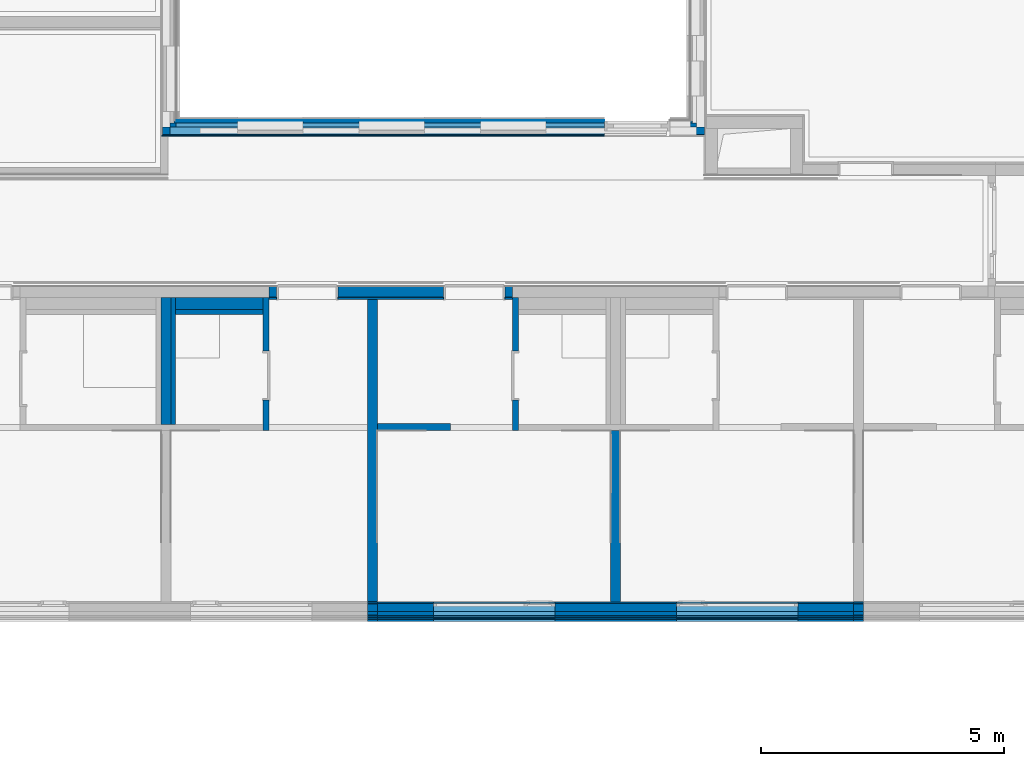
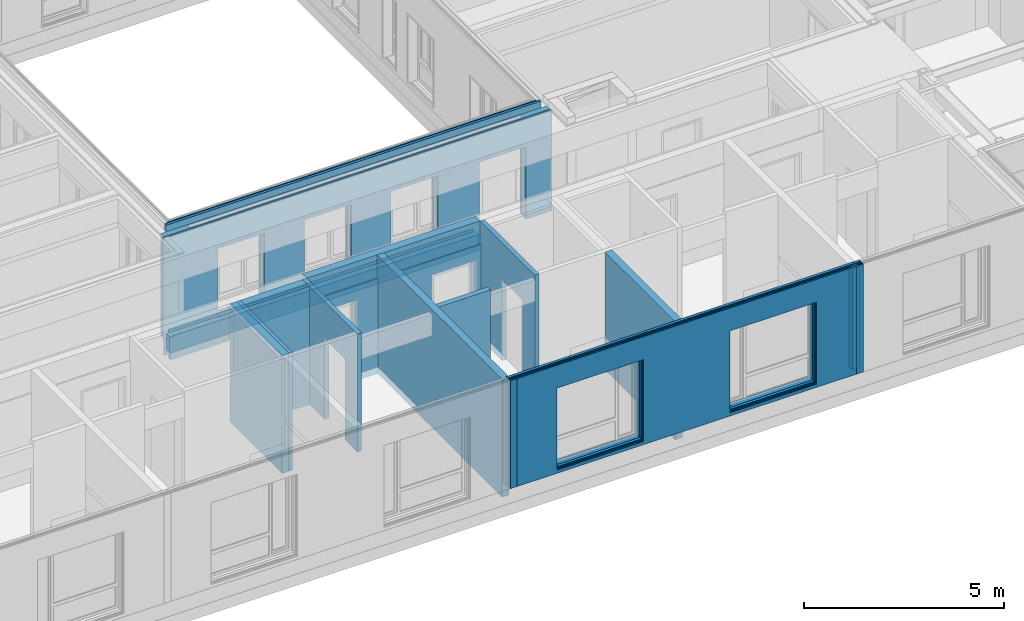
# One storey, part 12 of 207: 40 walls, 36 openings.
"""IFC4 building model written with IfcOpenShell, lengths in metres."""

from ifc_helpers import new_model, entity, si_unit, converted_unit, derived_unit, frame, frame_2d, origin, origin_with_axes, place, context, subcontext, project, spatial, polyline, rectangle, outline, extrude, clip, bounded_halfspace, material, element, save


model = new_model("IFC4")

# Units and contexts
model_context = context("Model", 3, precision=1e-05, world=origin())
body_context = subcontext(model_context, "Body", "Model", "MODEL_VIEW")
ifc_project = project(units=[si_unit("LENGTHUNIT", "METRE"), si_unit("AREAUNIT", "SQUARE_METRE"), si_unit("VOLUMEUNIT", "CUBIC_METRE"), si_unit("MASSUNIT", "GRAM", prefix="KILO"), converted_unit("PLANEANGLEUNIT", "DEGREE", entity("IfcPlaneAngleMeasure", 0.0174532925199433), si_unit("PLANEANGLEUNIT", "RADIAN"), dimensions=[0, 0, 0, 0, 0, 0, 0]), derived_unit("THERMALTRANSMITTANCEUNIT", [(si_unit("POWERUNIT", "WATT"), 1), (si_unit("THERMODYNAMICTEMPERATUREUNIT", "KELVIN"), -1), (si_unit("LENGTHUNIT", "METRE"), -2)]), derived_unit("VOLUMETRICFLOWRATEUNIT", [(si_unit("LENGTHUNIT", "METRE"), 3), (converted_unit("TIMEUNIT", "hour", entity("IfcTimeMeasure", 3600.0), si_unit("TIMEUNIT", "SECOND"), dimensions=[0, 0, 1, 0, 0, 0, 0]), -1), (si_unit("LENGTHUNIT", "METRE"), -1)])], contexts=[model_context])

# Site, building, storey
site_placement = place(None, origin())
site = spatial("IfcSite", under=ifc_project, at=site_placement, Name="Psychiatrie Neubau Wunstorf", CompositionType="ELEMENT")
building_placement = place(site_placement, origin())
building = spatial("IfcBuilding", under=site, at=building_placement, Name="Neubau H2 Stationsgebäude", CompositionType="ELEMENT")
storey_placement = place(building_placement, frame((0.0, 0.0, -0.2)))
storey = spatial("IfcBuildingStorey", under=building, at=storey_placement, Name="H2 Ebene 0", CompositionType="ELEMENT", Elevation=-0.2)

# Walls
ifc_material_1 = material(Name="WA-LB")
wall_1_placement = place(storey_placement, frame((30.1, -2.16399999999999, 0.5), z_axis=(0.0, 0.0, 1.0), x_axis=(-1.0, 0.0, 0.0)))
element("IfcWall", 1, at=wall_1_placement, inside=storey, material=ifc_material_1, context=body_context, shape_type="SweptSolid", body=[
    extrude(rectangle(XDim=0.2, YDim=0.036, at=frame_2d((0.1, 0.018), x_axis=(1.0, 0.0))), origin_with_axes(), (0.0, 0.0, 1.0), 3.1),
])
ifc_material_2 = material(Name="WA-HD")
wall_2_placement = place(storey_placement, frame((30.1, -2.19999999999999, 0.5), z_axis=(0.0, 0.0, 1.0), x_axis=(-1.0, 0.0, 0.0)))
element("IfcWall", 2, at=wall_2_placement, inside=storey, material=ifc_material_2, context=body_context, shape_type="SweptSolid", body=[
    extrude(rectangle(XDim=0.2, YDim=0.16, at=frame_2d((0.1, 0.08), x_axis=(1.0, 0.0))), origin_with_axes(), (0.0, 0.0, 1.0), 3.1),
])
ifc_material_3 = material(Name="WA-DL")
wall_3_placement = place(storey_placement, frame((30.1, -2.35999999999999, 0.5), z_axis=(0.0, 0.0, 1.0), x_axis=(-1.0, 0.0, 0.0)))
element("IfcWall", 3, at=wall_3_placement, inside=storey, material=ifc_material_3, context=body_context, shape_type="SweptSolid", body=[
    extrude(rectangle(XDim=0.2, YDim=0.08, at=frame_2d((0.1, 0.04), x_axis=(1.0, 0.0))), origin_with_axes(), (0.0, 0.0, 1.0), 3.3),
])
ifc_material_4 = material(Name="WA-TP")
wall_4_placement = place(storey_placement, frame((30.1, -2.43999999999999, 0.5), z_axis=(0.0, 0.0, 1.0), x_axis=(-1.0, 0.0, 0.0)))
element("IfcWall", 4, at=wall_4_placement, inside=storey, material=ifc_material_4, context=body_context, shape_type="SweptSolid", body=[
    extrude(rectangle(XDim=0.2, YDim=0.036, at=frame_2d((0.1, 0.018), x_axis=(1.0, 0.0))), origin_with_axes(), (0.0, 0.0, 1.0), 3.3),
])
ifc_material_5 = material(Name="WA-KL")
wall_5_placement = place(storey_placement, frame((30.1, -2.47599999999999, 0.5), z_axis=(0.0, 0.0, 1.0), x_axis=(-1.0, 0.0, 0.0)))
element("IfcWall", 5, at=wall_5_placement, inside=storey, material=ifc_material_5, context=body_context, shape_type="SweptSolid", body=[
    extrude(rectangle(XDim=0.2, YDim=0.024, at=frame_2d((0.1, 0.012), x_axis=(1.0, 0.0))), origin_with_axes(), (0.0, 0.0, 1.0), 3.3),
])
ifc_material_6 = material(Name="WA-TL")
wall_6_placement = place(storey_placement, frame((30.1, -2.49999999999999, 0.5), z_axis=(0.0, 0.0, 1.0), x_axis=(-1.0, 0.0, 0.0)))
element("IfcWall", 6, at=wall_6_placement, inside=storey, material=ifc_material_6, context=body_context, shape_type="SweptSolid", body=[
    extrude(rectangle(XDim=0.2, YDim=0.024, at=frame_2d((0.1, 0.012), x_axis=(1.0, 0.0))), origin_with_axes(), (0.0, 0.0, 1.0), 3.3),
])
ifc_material_7 = material(Name="WA-HS")
wall_7_placement = place(storey_placement, frame((30.1, -2.52399999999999, 0.5), z_axis=(0.0, 0.0, 1.0), x_axis=(-1.0, 0.0, 0.0)))
element("IfcWall", 7, at=wall_7_placement, inside=storey, material=ifc_material_7, context=body_context, shape_type="SweptSolid", body=[
    extrude(rectangle(XDim=0.2, YDim=0.042, at=frame_2d((0.1, 0.021), x_axis=(1.0, 0.0))), origin_with_axes(), (0.0, 0.0, 1.0), 3.3),
])
ifc_material_8 = material(Name="WA-LB")
wall_8_placement = place(storey_placement, frame((20.1, -2.16399999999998, 0.5), z_axis=(0.0, 0.0, 1.0), x_axis=(-1.0, 0.0, 0.0)))
element("IfcWall", 8, at=wall_8_placement, inside=storey, material=ifc_material_8, context=body_context, shape_type="SweptSolid", body=[
    extrude(rectangle(XDim=0.2, YDim=0.036, at=frame_2d((0.1, 0.018), x_axis=(1.0, 0.0))), origin_with_axes(), (0.0, 0.0, 1.0), 3.1),
])
ifc_material_9 = material(Name="WA-HD")
wall_9_placement = place(storey_placement, frame((20.1, -2.19999999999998, 0.5), z_axis=(0.0, 0.0, 1.0), x_axis=(-1.0, 0.0, 0.0)))
element("IfcWall", 9, at=wall_9_placement, inside=storey, material=ifc_material_9, context=body_context, shape_type="SweptSolid", body=[
    extrude(rectangle(XDim=0.2, YDim=0.16, at=frame_2d((0.1, 0.08), x_axis=(1.0, 0.0))), origin_with_axes(), (0.0, 0.0, 1.0), 3.1),
])
ifc_material_10 = material(Name="WA-DL")
wall_10_placement = place(storey_placement, frame((20.1, -2.35999999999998, 0.5), z_axis=(0.0, 0.0, 1.0), x_axis=(-1.0, 0.0, 0.0)))
element("IfcWall", 10, at=wall_10_placement, inside=storey, material=ifc_material_10, context=body_context, shape_type="SweptSolid", body=[
    extrude(rectangle(XDim=0.2, YDim=0.08, at=frame_2d((0.1, 0.04), x_axis=(1.0, 0.0))), origin_with_axes(), (0.0, 0.0, 1.0), 3.3),
])
ifc_material_11 = material(Name="WA-TP")
wall_11_placement = place(storey_placement, frame((20.1, -2.43999999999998, 0.5), z_axis=(0.0, 0.0, 1.0), x_axis=(-1.0, 0.0, 0.0)))
element("IfcWall", 11, at=wall_11_placement, inside=storey, material=ifc_material_11, context=body_context, shape_type="SweptSolid", body=[
    extrude(rectangle(XDim=0.2, YDim=0.036, at=frame_2d((0.1, 0.018), x_axis=(1.0, 0.0))), origin_with_axes(), (0.0, 0.0, 1.0), 3.3),
])
ifc_material_12 = material(Name="WA-KL")
wall_12_placement = place(storey_placement, frame((20.1, -2.47599999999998, 0.5), z_axis=(0.0, 0.0, 1.0), x_axis=(-1.0, 0.0, 0.0)))
element("IfcWall", 12, at=wall_12_placement, inside=storey, material=ifc_material_12, context=body_context, shape_type="SweptSolid", body=[
    extrude(rectangle(XDim=0.2, YDim=0.024, at=frame_2d((0.1, 0.012), x_axis=(1.0, 0.0))), origin_with_axes(), (0.0, 0.0, 1.0), 3.3),
])
ifc_material_13 = material(Name="WA-TL")
wall_13_placement = place(storey_placement, frame((20.1, -2.49999999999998, 0.5), z_axis=(0.0, 0.0, 1.0), x_axis=(-1.0, 0.0, 0.0)))
element("IfcWall", 13, at=wall_13_placement, inside=storey, material=ifc_material_13, context=body_context, shape_type="SweptSolid", body=[
    extrude(rectangle(XDim=0.2, YDim=0.024, at=frame_2d((0.1, 0.012), x_axis=(1.0, 0.0))), origin_with_axes(), (0.0, 0.0, 1.0), 3.3),
])
ifc_material_14 = material(Name="WA-HS")
wall_14_placement = place(storey_placement, frame((20.1, -2.52399999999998, 0.5), z_axis=(0.0, 0.0, 1.0), x_axis=(-1.0, 0.0, 0.0)))
element("IfcWall", 14, at=wall_14_placement, inside=storey, material=ifc_material_14, context=body_context, shape_type="SweptSolid", body=[
    extrude(rectangle(XDim=0.2, YDim=0.042, at=frame_2d((0.1, 0.021), x_axis=(1.0, 0.0))), origin_with_axes(), (0.0, 0.0, 1.0), 3.3),
])

# Wall, openings
ifc_material_15 = material(Name="WA-LB")
wall_15_placement = place(storey_placement, frame((15.639, 7.414, 0.5)))
wall_15 = element("IfcWall", 15, at=wall_15_placement, inside=storey, material=ifc_material_15, context=body_context, shape_type="SweptSolid", body=[
    extrude(rectangle(XDim=11.222, YDim=0.036, at=frame_2d((5.61099999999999, 0.018), x_axis=(1.0, 0.0))), origin_with_axes(), (0.0, 0.0, 1.0), 3.1),
])
opening_1_placement = place(wall_15_placement, frame((7.93116867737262, 0.036, 0.1), z_axis=(0.0, -1.0, 0.0), x_axis=(0.0, 0.0, 1.0)))
element("IfcOpeningElement", 16, at=opening_1_placement, cuts=wall_15, Name="Fensteröffnung", ObjectType="Opening", context=body_context, shape_type="SweptSolid", body=[
    extrude(outline(polyline([(2.12, 1.35), (2.12, 0.0), (0.0, 0.0), (0.0, 1.35), (2.12, 1.35)])), origin_with_axes(), (0.0, 0.0, 1.0), 0.036),
])
opening_2_placement = place(wall_15_placement, frame((5.43116867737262, 0.036, 0.1), z_axis=(0.0, -1.0, 0.0), x_axis=(0.0, 0.0, 1.0)))
element("IfcOpeningElement", 17, at=opening_2_placement, cuts=wall_15, Name="Fensteröffnung", ObjectType="Opening", context=body_context, shape_type="SweptSolid", body=[
    extrude(outline(polyline([(2.12, 1.35), (2.12, 0.0), (0.0, 0.0), (0.0, 1.35), (2.12, 1.35)])), origin_with_axes(), (0.0, 0.0, 1.0), 0.036),
])
opening_3_placement = place(wall_15_placement, frame((2.93116867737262, 0.036, 0.1), z_axis=(0.0, -1.0, 0.0), x_axis=(0.0, 0.0, 1.0)))
element("IfcOpeningElement", 18, at=opening_3_placement, cuts=wall_15, Name="Fensteröffnung", ObjectType="Opening", context=body_context, shape_type="SweptSolid", body=[
    extrude(outline(polyline([(2.12, 1.35), (2.12, 0.0), (0.0, 0.0), (0.0, 1.35), (2.12, 1.35)])), origin_with_axes(), (0.0, 0.0, 1.0), 0.036),
])
opening_4_placement = place(wall_15_placement, frame((10.4811686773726, 0.036, -0.5), z_axis=(0.0, -1.0, 0.0), x_axis=(0.0, 0.0, 1.0)))
element("IfcOpeningElement", 19, at=opening_4_placement, cuts=wall_15, Name="Türöffnung", ObjectType="Opening", context=body_context, shape_type="SweptSolid", body=[
    extrude(outline(polyline([(2.72, 1.35), (2.72, 0.0), (0.0, 0.0), (0.0, 1.35), (2.72, 1.35)])), origin_with_axes(), (0.0, 0.0, 1.0), 0.036),
])

ifc_material_16 = material(Name="WA-HD")
wall_16_placement = place(storey_placement, frame((15.675, 7.45, 0.5)))
wall_16 = element("IfcWall", 20, at=wall_16_placement, inside=storey, material=ifc_material_16, context=body_context, shape_type="Clipping", body=[
    clip(extrude(rectangle(XDim=11.15, YDim=0.16, at=frame_2d((5.57499999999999, 0.08), x_axis=(1.0, 0.0))), origin_with_axes(), (0.0, 0.0, 1.0), 3.1), bounded_halfspace(frame((5.57499929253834, 0.0800017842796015, 2.82), z_axis=(0.0, 0.0, -1.0), x_axis=(3.71484293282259e-07, -0.999999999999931, 0.0)), True, origin_with_axes(), polyline([(0.771890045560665, 0.139999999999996), (0.771890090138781, 0.0200000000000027), (10.378108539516, 0.0200035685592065), (10.3781084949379, 0.1400035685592), (0.771890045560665, 0.139999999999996)]))),
])
opening_5_placement = place(wall_16_placement, frame((7.89516867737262, 0.16, 0.1), z_axis=(0.0, -1.0, 0.0), x_axis=(0.0, 0.0, 1.0)))
element("IfcOpeningElement", 21, at=opening_5_placement, cuts=wall_16, Name="Fensteröffnung", ObjectType="Opening", context=body_context, shape_type="SweptSolid", body=[
    extrude(outline(polyline([(2.12, 1.35), (2.12, 0.0), (0.0, 0.0), (0.0, 1.35), (2.12, 1.35)])), origin_with_axes(), (0.0, 0.0, 1.0), 0.16),
])
opening_6_placement = place(wall_16_placement, frame((5.39516867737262, 0.16, 0.1), z_axis=(0.0, -1.0, 0.0), x_axis=(0.0, 0.0, 1.0)))
element("IfcOpeningElement", 22, at=opening_6_placement, cuts=wall_16, Name="Fensteröffnung", ObjectType="Opening", context=body_context, shape_type="SweptSolid", body=[
    extrude(outline(polyline([(2.12, 1.35), (2.12, 0.0), (0.0, 0.0), (0.0, 1.35), (2.12, 1.35)])), origin_with_axes(), (0.0, 0.0, 1.0), 0.16),
])
opening_7_placement = place(wall_16_placement, frame((2.89516867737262, 0.16, 0.1), z_axis=(0.0, -1.0, 0.0), x_axis=(0.0, 0.0, 1.0)))
element("IfcOpeningElement", 23, at=opening_7_placement, cuts=wall_16, Name="Fensteröffnung", ObjectType="Opening", context=body_context, shape_type="SweptSolid", body=[
    extrude(outline(polyline([(2.12, 1.35), (2.12, 0.0), (0.0, 0.0), (0.0, 1.35), (2.12, 1.35)])), origin_with_axes(), (0.0, 0.0, 1.0), 0.16),
])
opening_8_placement = place(wall_16_placement, frame((10.4451686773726, 0.16, -0.5), z_axis=(0.0, -1.0, 0.0), x_axis=(0.0, 0.0, 1.0)))
element("IfcOpeningElement", 24, at=opening_8_placement, cuts=wall_16, Name="Türöffnung", ObjectType="Opening", context=body_context, shape_type="SweptSolid", body=[
    extrude(outline(polyline([(2.72, 1.35), (2.72, 0.0), (0.0, 0.0), (0.0, 1.35), (2.72, 1.35)])), origin_with_axes(), (0.0, 0.0, 1.0), 0.16),
])

ifc_material_17 = material(Name="WA-DL")
wall_17_placement = place(storey_placement, frame((15.835, 7.61, 0.5)))
wall_17 = element("IfcWall", 25, at=wall_17_placement, inside=storey, material=ifc_material_17, context=body_context, shape_type="SweptSolid", body=[
    extrude(rectangle(XDim=10.83, YDim=0.08, at=frame_2d((5.41499999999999, 0.04), x_axis=(1.0, 0.0))), origin_with_axes(), (0.0, 0.0, 1.0), 3.3),
])
opening_9_placement = place(wall_17_placement, frame((7.73516867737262, 0.08, 0.1), z_axis=(0.0, -1.0, 0.0), x_axis=(0.0, 0.0, 1.0)))
element("IfcOpeningElement", 26, at=opening_9_placement, cuts=wall_17, Name="Fensteröffnung", ObjectType="Opening", context=body_context, shape_type="SweptSolid", body=[
    extrude(outline(polyline([(2.12, 1.35), (2.12, 0.0), (0.0, 0.0), (0.0, 1.35), (2.12, 1.35)])), origin_with_axes(), (0.0, 0.0, 1.0), 0.08),
])
opening_10_placement = place(wall_17_placement, frame((5.23516867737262, 0.08, 0.1), z_axis=(0.0, -1.0, 0.0), x_axis=(0.0, 0.0, 1.0)))
element("IfcOpeningElement", 27, at=opening_10_placement, cuts=wall_17, Name="Fensteröffnung", ObjectType="Opening", context=body_context, shape_type="SweptSolid", body=[
    extrude(outline(polyline([(2.12, 1.35), (2.12, 0.0), (0.0, 0.0), (0.0, 1.35), (2.12, 1.35)])), origin_with_axes(), (0.0, 0.0, 1.0), 0.08),
])
opening_11_placement = place(wall_17_placement, frame((2.73516867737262, 0.08, 0.1), z_axis=(0.0, -1.0, 0.0), x_axis=(0.0, 0.0, 1.0)))
element("IfcOpeningElement", 28, at=opening_11_placement, cuts=wall_17, Name="Fensteröffnung", ObjectType="Opening", context=body_context, shape_type="SweptSolid", body=[
    extrude(outline(polyline([(2.12, 1.35), (2.12, 0.0), (0.0, 0.0), (0.0, 1.35), (2.12, 1.35)])), origin_with_axes(), (0.0, 0.0, 1.0), 0.08),
])
opening_12_placement = place(wall_17_placement, frame((10.2851686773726, 0.08, -0.5), z_axis=(0.0, -1.0, 0.0), x_axis=(0.0, 0.0, 1.0)))
element("IfcOpeningElement", 29, at=opening_12_placement, cuts=wall_17, Name="Türöffnung", ObjectType="Opening", context=body_context, shape_type="SweptSolid", body=[
    extrude(outline(polyline([(2.72, 1.35), (2.72, 0.0), (0.0, 0.0), (0.0, 1.35), (2.72, 1.35)])), origin_with_axes(), (0.0, 0.0, 1.0), 0.08),
])

ifc_material_18 = material(Name="WA-LB")
wall_18_placement = place(storey_placement, frame((15.915, 7.69, 0.5)))
wall_18 = element("IfcWall", 30, at=wall_18_placement, inside=storey, material=ifc_material_18, context=body_context, shape_type="SweptSolid", body=[
    extrude(rectangle(XDim=10.67, YDim=0.036, at=frame_2d((5.33499999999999, 0.018), x_axis=(1.0, 0.0))), origin_with_axes(), (0.0, 0.0, 1.0), 3.3),
])
opening_13_placement = place(wall_18_placement, frame((7.65516867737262, 0.036, 0.1), z_axis=(0.0, -1.0, 0.0), x_axis=(0.0, 0.0, 1.0)))
element("IfcOpeningElement", 31, at=opening_13_placement, cuts=wall_18, Name="Fensteröffnung", ObjectType="Opening", context=body_context, shape_type="SweptSolid", body=[
    extrude(outline(polyline([(2.12, 1.35), (2.12, 0.0), (0.0, 0.0), (0.0, 1.35), (2.12, 1.35)])), origin_with_axes(), (0.0, 0.0, 1.0), 0.036),
])
opening_14_placement = place(wall_18_placement, frame((5.15516867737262, 0.036, 0.1), z_axis=(0.0, -1.0, 0.0), x_axis=(0.0, 0.0, 1.0)))
element("IfcOpeningElement", 32, at=opening_14_placement, cuts=wall_18, Name="Fensteröffnung", ObjectType="Opening", context=body_context, shape_type="SweptSolid", body=[
    extrude(outline(polyline([(2.12, 1.35), (2.12, 0.0), (0.0, 0.0), (0.0, 1.35), (2.12, 1.35)])), origin_with_axes(), (0.0, 0.0, 1.0), 0.036),
])
opening_15_placement = place(wall_18_placement, frame((2.65516867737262, 0.036, 0.1), z_axis=(0.0, -1.0, 0.0), x_axis=(0.0, 0.0, 1.0)))
element("IfcOpeningElement", 33, at=opening_15_placement, cuts=wall_18, Name="Fensteröffnung", ObjectType="Opening", context=body_context, shape_type="SweptSolid", body=[
    extrude(outline(polyline([(2.12, 1.35), (2.12, 0.0), (0.0, 0.0), (0.0, 1.35), (2.12, 1.35)])), origin_with_axes(), (0.0, 0.0, 1.0), 0.036),
])
opening_16_placement = place(wall_18_placement, frame((10.2051686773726, 0.036, -0.5), z_axis=(0.0, -1.0, 0.0), x_axis=(0.0, 0.0, 1.0)))
element("IfcOpeningElement", 34, at=opening_16_placement, cuts=wall_18, Name="Türöffnung", ObjectType="Opening", context=body_context, shape_type="SweptSolid", body=[
    extrude(outline(polyline([(2.72, 1.35), (2.72, 0.0), (0.0, 0.0), (0.0, 1.35), (2.72, 1.35)])), origin_with_axes(), (0.0, 0.0, 1.0), 0.036),
])

ifc_material_19 = material(Name="WA-LB")
wall_19_placement = place(storey_placement, frame((29.9, -2.16399999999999, 0.5), z_axis=(0.0, 0.0, 1.0), x_axis=(-1.0, 1.39208372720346e-16, 0.0)))
wall_19 = element("IfcWall", 35, at=wall_19_placement, inside=storey, material=ifc_material_19, context=body_context, shape_type="SweptSolid", body=[
    extrude(rectangle(XDim=9.8, YDim=0.036, at=frame_2d((4.9, 0.018), x_axis=(1.0, 0.0))), origin_with_axes(), (0.0, 0.0, 1.0), 3.1),
])
opening_17_placement = place(wall_19_placement, frame((1.15, 0.0, 0.1), z_axis=(0.0, 1.0, 0.0), x_axis=(0.0, 0.0, 1.0)))
element("IfcOpeningElement", 36, at=opening_17_placement, cuts=wall_19, Name="Fensteröffnung", ObjectType="Opening", context=body_context, shape_type="SweptSolid", body=[
    extrude(outline(polyline([(2.5, 2.5), (2.5, 0.0), (0.0, 0.0), (0.0, 2.5), (2.5, 2.5)])), origin_with_axes(), (0.0, 0.0, 1.0), 0.036),
])
opening_18_placement = place(wall_19_placement, frame((6.15, 0.0, 0.1), z_axis=(0.0, 1.0, 0.0), x_axis=(0.0, 0.0, 1.0)))
element("IfcOpeningElement", 37, at=opening_18_placement, cuts=wall_19, Name="Fensteröffnung", ObjectType="Opening", context=body_context, shape_type="SweptSolid", body=[
    extrude(outline(polyline([(2.5, 2.5), (2.5, 0.0), (0.0, 0.0), (0.0, 2.5), (2.5, 2.5)])), origin_with_axes(), (0.0, 0.0, 1.0), 0.036),
])

ifc_material_20 = material(Name="WA-HD")
wall_20_placement = place(storey_placement, frame((29.9, -2.19999999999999, 0.5), z_axis=(0.0, 0.0, 1.0), x_axis=(-1.0, 1.39208372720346e-16, 0.0)))
wall_20 = element("IfcWall", 38, at=wall_20_placement, inside=storey, material=ifc_material_20, context=body_context, shape_type="SweptSolid", body=[
    extrude(rectangle(XDim=9.8, YDim=0.16, at=frame_2d((4.9, 0.08), x_axis=(1.0, 0.0))), origin_with_axes(), (0.0, 0.0, 1.0), 3.1),
])
opening_19_placement = place(wall_20_placement, frame((1.15, 0.0, 0.1), z_axis=(0.0, 1.0, 0.0), x_axis=(0.0, 0.0, 1.0)))
element("IfcOpeningElement", 39, at=opening_19_placement, cuts=wall_20, Name="Fensteröffnung", ObjectType="Opening", context=body_context, shape_type="SweptSolid", body=[
    extrude(outline(polyline([(2.5, 2.5), (2.5, 0.0), (0.0, 0.0), (0.0, 2.5), (2.5, 2.5)])), origin_with_axes(), (0.0, 0.0, 1.0), 0.16),
])
opening_20_placement = place(wall_20_placement, frame((6.15, 0.0, 0.1), z_axis=(0.0, 1.0, 0.0), x_axis=(0.0, 0.0, 1.0)))
element("IfcOpeningElement", 40, at=opening_20_placement, cuts=wall_20, Name="Fensteröffnung", ObjectType="Opening", context=body_context, shape_type="SweptSolid", body=[
    extrude(outline(polyline([(2.5, 2.5), (2.5, 0.0), (0.0, 0.0), (0.0, 2.5), (2.5, 2.5)])), origin_with_axes(), (0.0, 0.0, 1.0), 0.16),
])

ifc_material_21 = material(Name="WA-DL")
wall_21_placement = place(storey_placement, frame((29.9, -2.35999999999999, 0.5), z_axis=(0.0, 0.0, 1.0), x_axis=(-1.0, 1.39208372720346e-16, 0.0)))
wall_21 = element("IfcWall", 41, at=wall_21_placement, inside=storey, material=ifc_material_21, context=body_context, shape_type="SweptSolid", body=[
    extrude(rectangle(XDim=9.8, YDim=0.08, at=frame_2d((4.9, 0.04), x_axis=(1.0, 0.0))), origin_with_axes(), (0.0, 0.0, 1.0), 3.3),
])
opening_21_placement = place(wall_21_placement, frame((1.15, 0.0, 0.1), z_axis=(0.0, 1.0, 0.0), x_axis=(0.0, 0.0, 1.0)))
element("IfcOpeningElement", 42, at=opening_21_placement, cuts=wall_21, Name="Fensteröffnung", ObjectType="Opening", context=body_context, shape_type="SweptSolid", body=[
    extrude(outline(polyline([(2.5, 2.5), (2.5, 0.0), (0.0, 0.0), (0.0, 2.5), (2.5, 2.5)])), origin_with_axes(), (0.0, 0.0, 1.0), 0.08),
])
opening_22_placement = place(wall_21_placement, frame((6.15, 0.0, 0.1), z_axis=(0.0, 1.0, 0.0), x_axis=(0.0, 0.0, 1.0)))
element("IfcOpeningElement", 43, at=opening_22_placement, cuts=wall_21, Name="Fensteröffnung", ObjectType="Opening", context=body_context, shape_type="SweptSolid", body=[
    extrude(outline(polyline([(2.5, 2.5), (2.5, 0.0), (0.0, 0.0), (0.0, 2.5), (2.5, 2.5)])), origin_with_axes(), (0.0, 0.0, 1.0), 0.08),
])

ifc_material_22 = material(Name="WA-TP")
wall_22_placement = place(storey_placement, frame((29.9, -2.43999999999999, 0.5), z_axis=(0.0, 0.0, 1.0), x_axis=(-1.0, 1.39208372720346e-16, 0.0)))
wall_22 = element("IfcWall", 44, at=wall_22_placement, inside=storey, material=ifc_material_22, context=body_context, shape_type="SweptSolid", body=[
    extrude(rectangle(XDim=9.8, YDim=0.036, at=frame_2d((4.9, 0.018), x_axis=(1.0, 0.0))), origin_with_axes(), (0.0, 0.0, 1.0), 3.3),
])
opening_23_placement = place(wall_22_placement, frame((1.15, 0.0, 0.1), z_axis=(0.0, 1.0, 0.0), x_axis=(0.0, 0.0, 1.0)))
element("IfcOpeningElement", 45, at=opening_23_placement, cuts=wall_22, Name="Fensteröffnung", ObjectType="Opening", context=body_context, shape_type="SweptSolid", body=[
    extrude(outline(polyline([(2.5, 2.5), (2.5, 0.0), (0.0, 0.0), (0.0, 2.5), (2.5, 2.5)])), origin_with_axes(), (0.0, 0.0, 1.0), 0.036),
])
opening_24_placement = place(wall_22_placement, frame((6.15, 0.0, 0.1), z_axis=(0.0, 1.0, 0.0), x_axis=(0.0, 0.0, 1.0)))
element("IfcOpeningElement", 46, at=opening_24_placement, cuts=wall_22, Name="Fensteröffnung", ObjectType="Opening", context=body_context, shape_type="SweptSolid", body=[
    extrude(outline(polyline([(2.5, 2.5), (2.5, 0.0), (0.0, 0.0), (0.0, 2.5), (2.5, 2.5)])), origin_with_axes(), (0.0, 0.0, 1.0), 0.036),
])

ifc_material_23 = material(Name="WA-KL")
wall_23_placement = place(storey_placement, frame((29.9, -2.47599999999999, 0.5), z_axis=(0.0, 0.0, 1.0), x_axis=(-1.0, 1.39208372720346e-16, 0.0)))
wall_23 = element("IfcWall", 47, at=wall_23_placement, inside=storey, material=ifc_material_23, context=body_context, shape_type="SweptSolid", body=[
    extrude(rectangle(XDim=9.8, YDim=0.024, at=frame_2d((4.9, 0.012), x_axis=(1.0, 0.0))), origin_with_axes(), (0.0, 0.0, 1.0), 3.3),
])
opening_25_placement = place(wall_23_placement, frame((1.15, 0.0, 0.1), z_axis=(0.0, 1.0, 0.0), x_axis=(0.0, 0.0, 1.0)))
element("IfcOpeningElement", 48, at=opening_25_placement, cuts=wall_23, Name="Fensteröffnung", ObjectType="Opening", context=body_context, shape_type="SweptSolid", body=[
    extrude(outline(polyline([(2.5, 2.5), (2.5, 0.0), (0.0, 0.0), (0.0, 2.5), (2.5, 2.5)])), origin_with_axes(), (0.0, 0.0, 1.0), 0.024),
])
opening_26_placement = place(wall_23_placement, frame((6.15, 0.0, 0.1), z_axis=(0.0, 1.0, 0.0), x_axis=(0.0, 0.0, 1.0)))
element("IfcOpeningElement", 49, at=opening_26_placement, cuts=wall_23, Name="Fensteröffnung", ObjectType="Opening", context=body_context, shape_type="SweptSolid", body=[
    extrude(outline(polyline([(2.5, 2.5), (2.5, 0.0), (0.0, 0.0), (0.0, 2.5), (2.5, 2.5)])), origin_with_axes(), (0.0, 0.0, 1.0), 0.024),
])

ifc_material_24 = material(Name="WA-TL")
wall_24_placement = place(storey_placement, frame((29.9, -2.49999999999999, 0.5), z_axis=(0.0, 0.0, 1.0), x_axis=(-1.0, 1.39208372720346e-16, 0.0)))
wall_24 = element("IfcWall", 50, at=wall_24_placement, inside=storey, material=ifc_material_24, context=body_context, shape_type="SweptSolid", body=[
    extrude(rectangle(XDim=9.8, YDim=0.024, at=frame_2d((4.9, 0.012), x_axis=(1.0, 0.0))), origin_with_axes(), (0.0, 0.0, 1.0), 3.3),
])
opening_27_placement = place(wall_24_placement, frame((1.15, 0.0, 0.1), z_axis=(0.0, 1.0, 0.0), x_axis=(0.0, 0.0, 1.0)))
element("IfcOpeningElement", 51, at=opening_27_placement, cuts=wall_24, Name="Fensteröffnung", ObjectType="Opening", context=body_context, shape_type="SweptSolid", body=[
    extrude(outline(polyline([(2.5, 2.5), (2.5, 0.0), (0.0, 0.0), (0.0, 2.5), (2.5, 2.5)])), origin_with_axes(), (0.0, 0.0, 1.0), 0.024),
])
opening_28_placement = place(wall_24_placement, frame((6.15, 0.0, 0.1), z_axis=(0.0, 1.0, 0.0), x_axis=(0.0, 0.0, 1.0)))
element("IfcOpeningElement", 52, at=opening_28_placement, cuts=wall_24, Name="Fensteröffnung", ObjectType="Opening", context=body_context, shape_type="SweptSolid", body=[
    extrude(outline(polyline([(2.5, 2.5), (2.5, 0.0), (0.0, 0.0), (0.0, 2.5), (2.5, 2.5)])), origin_with_axes(), (0.0, 0.0, 1.0), 0.024),
])

ifc_material_25 = material(Name="WA-HS")
wall_25_placement = place(storey_placement, frame((29.9, -2.52399999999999, 0.5), z_axis=(0.0, 0.0, 1.0), x_axis=(-1.0, 1.39208372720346e-16, 0.0)))
wall_25 = element("IfcWall", 53, at=wall_25_placement, inside=storey, material=ifc_material_25, context=body_context, shape_type="SweptSolid", body=[
    extrude(rectangle(XDim=9.8, YDim=0.042, at=frame_2d((4.9, 0.021), x_axis=(1.0, 0.0))), origin_with_axes(), (0.0, 0.0, 1.0), 3.3),
])
opening_29_placement = place(wall_25_placement, frame((6.15, 0.0, 0.1), z_axis=(0.0, 1.0, 0.0), x_axis=(0.0, 0.0, 1.0)))
element("IfcOpeningElement", 54, at=opening_29_placement, cuts=wall_25, Name="Fensteröffnung", ObjectType="Opening", context=body_context, shape_type="SweptSolid", body=[
    extrude(outline(polyline([(2.5, 2.5), (2.5, 0.0), (0.0, 0.0), (0.0, 2.5), (2.5, 2.5)])), origin_with_axes(), (0.0, 0.0, 1.0), 0.042),
])
opening_30_placement = place(wall_25_placement, frame((1.15, 0.0, 0.1), z_axis=(0.0, 1.0, 0.0), x_axis=(0.0, 0.0, 1.0)))
element("IfcOpeningElement", 55, at=opening_30_placement, cuts=wall_25, Name="Fensteröffnung", ObjectType="Opening", context=body_context, shape_type="SweptSolid", body=[
    extrude(outline(polyline([(2.5, 2.5), (2.5, 0.0), (0.0, 0.0), (0.0, 2.5), (2.5, 2.5)])), origin_with_axes(), (0.0, 0.0, 1.0), 0.042),
])

# Walls
ifc_material_26 = material(Name="WA-LB")
wall_26_placement = place(storey_placement, frame((15.66, 7.414, 0.0)))
element("IfcWall", 56, at=wall_26_placement, inside=storey, material=ifc_material_26, context=body_context, shape_type="SweptSolid", body=[
    extrude(rectangle(XDim=9.11016867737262, YDim=0.021, at=frame_2d((4.55508433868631, 0.0105), x_axis=(1.0, 0.0))), origin_with_axes(), (0.0, 0.0, 1.0), 0.5),
])
ifc_material_27 = material(Name="WA-STB")
wall_27_placement = place(storey_placement, frame((15.835, 7.435, 0.0)))
element("IfcWall", 57, at=wall_27_placement, inside=storey, material=ifc_material_27, context=body_context, shape_type="SweptSolid", body=[
    extrude(rectangle(XDim=8.93516867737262, YDim=0.174999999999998, at=frame_2d((4.46758433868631, 0.0874999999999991), x_axis=(1.0, 0.0))), origin_with_axes(), (0.0, 0.0, 1.0), 0.5),
])
ifc_material_28 = material(Name="WA-DE")
wall_28_placement = place(storey_placement, frame((15.955, 7.61, -0.36)))
element("IfcWall", 58, at=wall_28_placement, inside=storey, material=ifc_material_28, context=body_context, shape_type="SweptSolid", body=[
    extrude(rectangle(XDim=8.81516867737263, YDim=0.12, at=frame_2d((4.40758433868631, 0.06), x_axis=(1.0, 0.0))), origin_with_axes(), (0.0, 0.0, 1.0), 0.86),
])
ifc_material_29 = material(Name="WA-LB")
wall_29_placement = place(storey_placement, frame((15.97, 7.73, 0.0)))
element("IfcWall", 59, at=wall_29_placement, inside=storey, material=ifc_material_29, context=body_context, shape_type="SweptSolid", body=[
    extrude(rectangle(XDim=8.80016867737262, YDim=0.015, at=frame_2d((4.40008433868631, 0.0075), x_axis=(1.0, 0.0))), origin_with_axes(), (0.0, 0.0, 1.0), 0.5),
])
ifc_material_30 = material(Name="WI-LB")
wall_30_placement = place(storey_placement, frame((24.9, 1.35874963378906, 0.0), z_axis=(0.0, 0.0, 1.0), x_axis=(0.0, -1.0, 0.0)))
element("IfcWall", 60, at=wall_30_placement, inside=storey, material=ifc_material_30, context=body_context, shape_type="SweptSolid", body=[
    extrude(rectangle(XDim=3.52274963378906, YDim=0.2, at=frame_2d((1.76137481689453, 0.1), x_axis=(1.0, 0.0))), origin_with_axes(), (0.0, 0.0, 1.0), 3.6),
])
ifc_material_31 = material(Name="WI-LB")
wall_31_placement = place(storey_placement, frame((19.9, 4.09874963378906, 0.0), z_axis=(0.0, 0.0, 1.0), x_axis=(0.0, -1.0, 0.0)))
element("IfcWall", 61, at=wall_31_placement, inside=storey, material=ifc_material_31, context=body_context, shape_type="SweptSolid", body=[
    extrude(rectangle(XDim=6.26274963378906, YDim=0.2, at=frame_2d((3.13137481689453, 0.1), x_axis=(1.0, 0.0))), origin_with_axes(), (0.0, 0.0, 1.0), 3.6),
])
ifc_material_32 = material(Name="WI-LB")
wall_32_placement = place(storey_placement, frame((21.6, 1.5087496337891, 0.0), z_axis=(0.0, 0.0, 1.0), x_axis=(-1.0, 0.0, 0.0)))
element("IfcWall", 62, at=wall_32_placement, inside=storey, material=ifc_material_32, context=body_context, shape_type="SweptSolid", body=[
    extrude(rectangle(XDim=1.5, YDim=0.15, at=frame_2d((0.75, 0.075), x_axis=(1.0, 0.0))), origin_with_axes(), (0.0, 0.0, 1.0), 3.6),
])

# Wall, opening
ifc_material_33 = material(Name="WI-LB")
wall_33_placement = place(storey_placement, frame((17.875, 1.35874963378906, 0.0), z_axis=(0.0, 0.0, 1.0), x_axis=(0.0, 1.0, 0.0)))
wall_33 = element("IfcWall", 63, at=wall_33_placement, inside=storey, material=ifc_material_33, context=body_context, shape_type="SweptSolid", body=[
    extrude(rectangle(XDim=2.74, YDim=0.125, at=frame_2d((1.37, 0.0625), x_axis=(1.0, 0.0))), origin_with_axes(), (0.0, 0.0, 1.0), 3.6),
])
opening_31_placement = place(wall_33_placement, frame((1.635, 0.125, 0.0), z_axis=(0.0, -1.0, 0.0), x_axis=(0.0, 0.0, 1.0)))
element("IfcOpeningElement", 64, at=opening_31_placement, cuts=wall_33, Name="Türöffnung", ObjectType="Opening", context=body_context, shape_type="SweptSolid", body=[
    extrude(outline(polyline([(2.46, 1.01), (2.46, 0.0), (0.0, 0.0), (0.0, 1.01), (2.46, 1.01)])), origin_with_axes(), (0.0, 0.0, 1.0), 0.125),
])

# Wall, openings
ifc_material_34 = material(Name="WI-HW 60")
wall_34_placement = place(storey_placement, frame((22.875, 4.33074963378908, 0.0), z_axis=(0.0, 0.0, 1.0), x_axis=(-1.0, -7.27595761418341e-16, 0.0)))
wall_34 = element("IfcWall", 65, at=wall_34_placement, inside=storey, material=ifc_material_34, context=body_context, shape_type="SweptSolid", body=[
    extrude(rectangle(XDim=5.00000000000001, YDim=0.232000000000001, at=frame_2d((2.50000000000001, 0.116), x_axis=(1.0, 0.0))), origin_with_axes(), (0.0, 0.0, 1.0), 3.6),
])
opening_32_placement = place(wall_34_placement, frame((3.59000000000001, 0.0, 0.0), z_axis=(0.0, 1.0, 0.0), x_axis=(0.0, 0.0, 1.0)))
element("IfcOpeningElement", 66, at=opening_32_placement, cuts=wall_34, Name="Türöffnung", ObjectType="Opening", context=body_context, shape_type="SweptSolid", body=[
    extrude(outline(polyline([(2.46, 1.26), (2.46, 0.0), (0.0, 0.0), (0.0, 1.26), (2.46, 1.26)])), origin_with_axes(), (0.0, 0.0, 1.0), 0.232000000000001),
])
opening_33_placement = place(wall_34_placement, frame((0.150000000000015, 0.0, 0.0), z_axis=(7.35044209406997e-16, 1.0, 0.0), x_axis=(0.0, 0.0, 1.0)))
element("IfcOpeningElement", 67, at=opening_33_placement, cuts=wall_34, Name="Türöffnung", ObjectType="Opening", context=body_context, shape_type="SweptSolid", body=[
    extrude(outline(polyline([(2.46, 1.26), (2.46, 0.0), (0.0, 0.0), (0.0, 1.26), (2.46, 1.26)])), origin_with_axes(), (0.0, 0.0, 1.0), 0.232000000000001),
])

ifc_material_35 = material(Name="WI-LB")
wall_35_placement = place(storey_placement, frame((22.875, 4.09874963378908, 0.0), z_axis=(0.0, 0.0, 1.0), x_axis=(-1.0, -7.27595761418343e-16, 0.0)))
wall_35 = element("IfcWall", 68, at=wall_35_placement, inside=storey, material=ifc_material_35, context=body_context, shape_type="SweptSolid", body=[
    extrude(rectangle(XDim=5.0, YDim=0.0394999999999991, at=frame_2d((2.5, 0.0197499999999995), x_axis=(1.0, 0.0))), origin_with_axes(), (0.0, 0.0, 1.0), 2.9),
])
opening_34_placement = place(wall_35_placement, frame((0.150000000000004, 0.0, 0.0), z_axis=(7.19536947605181e-16, 1.0, 0.0), x_axis=(0.0, 0.0, 1.0)))
element("IfcOpeningElement", 69, at=opening_34_placement, cuts=wall_35, Name="Türöffnung", ObjectType="Opening", context=body_context, shape_type="SweptSolid", body=[
    extrude(outline(polyline([(2.46, 1.26), (2.46, 0.0), (0.0, 0.0), (0.0, 1.26), (2.46, 1.26)])), origin_with_axes(), (0.0, 0.0, 1.0), 0.0394999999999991),
])
opening_35_placement = place(wall_35_placement, frame((3.59, 0.0, 0.0), z_axis=(0.0, 1.0, 0.0), x_axis=(0.0, 0.0, 1.0)))
element("IfcOpeningElement", 70, at=opening_35_placement, cuts=wall_35, Name="Türöffnung", ObjectType="Opening", context=body_context, shape_type="SweptSolid", body=[
    extrude(outline(polyline([(2.46, 1.26), (2.46, 0.0), (0.0, 0.0), (0.0, 1.26), (2.46, 1.26)])), origin_with_axes(), (0.0, 0.0, 1.0), 0.0394999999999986),
])

# Wall, opening
ifc_material_36 = material(Name="WI-LB")
wall_36_placement = place(storey_placement, frame((22.875, 4.09874963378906, 0.0), z_axis=(0.0, 0.0, 1.0), x_axis=(0.0, -1.0, 0.0)))
wall_36 = element("IfcWall", 71, at=wall_36_placement, inside=storey, material=ifc_material_36, context=body_context, shape_type="SweptSolid", body=[
    extrude(rectangle(XDim=2.74, YDim=0.125, at=frame_2d((1.37, 0.0625), x_axis=(1.0, 0.0))), origin_with_axes(), (0.0, 0.0, 1.0), 3.6),
])
opening_36_placement = place(wall_36_placement, frame((2.115, 0.125, 0.0), z_axis=(0.0, -1.0, 0.0), x_axis=(0.0, 0.0, 1.0)))
element("IfcOpeningElement", 72, at=opening_36_placement, cuts=wall_36, Name="Türöffnung", ObjectType="Opening", context=body_context, shape_type="SweptSolid", body=[
    extrude(outline(polyline([(2.46, 1.01), (2.46, 0.0), (0.0, 0.0), (0.0, 1.01), (2.46, 1.01)])), origin_with_axes(), (0.0, 0.0, 1.0), 0.125),
])

# Walls
ifc_material_37 = material(Name="WI-IW")
wall_37_placement = place(storey_placement, frame((15.95, 1.48374963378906, 0.0), z_axis=(0.0, 0.0, 1.0), x_axis=(0.0, 1.0, 0.0)))
element("IfcWall", 73, at=wall_37_placement, inside=storey, material=ifc_material_37, context=body_context, shape_type="SweptSolid", body=[
    extrude(rectangle(XDim=2.615, YDim=0.1, at=frame_2d((1.3075, 0.05), x_axis=(1.0, 0.0))), origin_with_axes(), (0.0, 0.0, 1.0), 3.6),
])
ifc_material_38 = material(Name="Installationsraum")
wall_38_placement = place(storey_placement, frame((15.85, 1.48374963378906, 0.0), z_axis=(0.0, 0.0, 1.0), x_axis=(0.0, 1.0, 0.0)))
element("IfcWall", 74, at=wall_38_placement, inside=storey, material=ifc_material_38, context=body_context, shape_type="SweptSolid", body=[
    extrude(rectangle(XDim=2.615, YDim=0.2, at=frame_2d((1.3075, 0.1), x_axis=(1.0, 0.0))), origin_with_axes(), (0.0, 0.0, 1.0), 3.6),
])
ifc_material_39 = material(Name="WI-IW")
wall_39_placement = place(storey_placement, frame((15.95, 3.74874963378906, 0.0)))
element("IfcWall", 75, at=wall_39_placement, inside=storey, material=ifc_material_39, context=body_context, shape_type="SweptSolid", body=[
    extrude(rectangle(XDim=1.8, YDim=0.1, at=frame_2d((0.9, 0.05), x_axis=(1.0, 0.0))), origin_with_axes(), (0.0, 0.0, 1.0), 3.6),
])
ifc_material_40 = material(Name="Installationsraum")
wall_40_placement = place(storey_placement, frame((15.95, 3.84874963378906, 0.0)))
element("IfcWall", 76, at=wall_40_placement, inside=storey, material=ifc_material_40, context=body_context, shape_type="SweptSolid", body=[
    extrude(rectangle(XDim=1.8, YDim=0.25, at=frame_2d((0.9, 0.125), x_axis=(1.0, 0.0))), origin_with_axes(), (0.0, 0.0, 1.0), 3.6),
])

save(model, "model.ifc")
